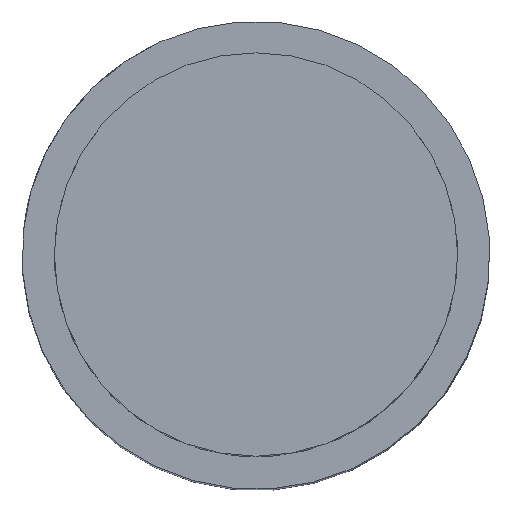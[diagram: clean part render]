
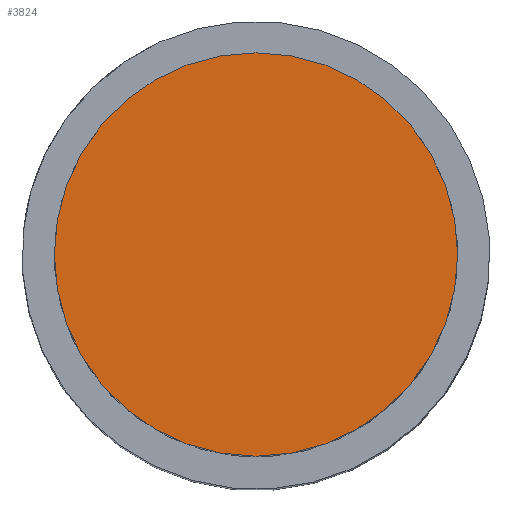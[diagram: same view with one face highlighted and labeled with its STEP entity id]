
A CAD part, top view. The second image highlights one B-rep face of the part: STEP entity #3824.
In plain terms, the highlighted planar face has unit normal (0, 0, 1) as drawn and (0, 1, 0) by its records, which use the part's own axes.
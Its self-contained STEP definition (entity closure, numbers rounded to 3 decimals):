
#159 = FACE_OUTER_BOUND ( 'NONE', #2482, .T. ) ;
#485 = EDGE_CURVE ( 'NONE', #4943, #3243, #3957, .T. ) ;
#726 = CARTESIAN_POINT ( 'NONE',  ( 0., 6.6, 0. ) ) ;
#1533 = CARTESIAN_POINT ( 'NONE',  ( 0., 6.6, 2.5 ) ) ;
#1553 = AXIS2_PLACEMENT_3D ( 'NONE', #6232, #6262, #4246 ) ;
#2482 = EDGE_LOOP ( 'NONE', ( #7325, #7163 ) ) ;
#2636 = DIRECTION ( 'NONE',  ( 0., 1., 0. ) ) ;
#2662 = PLANE ( 'NONE',  #2978 ) ;
#2978 = AXIS2_PLACEMENT_3D ( 'NONE', #726, #4649, #5355 ) ;
#3243 = VERTEX_POINT ( 'NONE', #1533 ) ;
#3315 = CARTESIAN_POINT ( 'NONE',  ( 0., 6.6, 0. ) ) ;
#3406 = CARTESIAN_POINT ( 'NONE',  ( 0., 6.6, -2.5 ) ) ;
#3824 = ADVANCED_FACE ( 'NONE', ( #159 ), #2662, .T. ) ;
#3957 = CIRCLE ( 'NONE', #1553, 2.5 ) ;
#4246 = DIRECTION ( 'NONE',  ( 0., 0., 1. ) ) ;
#4649 = DIRECTION ( 'NONE',  ( 0., 1., 0. ) ) ;
#4943 = VERTEX_POINT ( 'NONE', #3406 ) ;
#5355 = DIRECTION ( 'NONE',  ( 0., 0., 1. ) ) ;
#6232 = CARTESIAN_POINT ( 'NONE',  ( 0., 6.6, 0. ) ) ;
#6262 = DIRECTION ( 'NONE',  ( 0., 1., 0. ) ) ;
#7163 = ORIENTED_EDGE ( 'NONE', *, *, #7306, .T. ) ;
#7178 = CIRCLE ( 'NONE', #8507, 2.5 ) ;
#7257 = DIRECTION ( 'NONE',  ( 0., 0., 1. ) ) ;
#7306 = EDGE_CURVE ( 'NONE', #3243, #4943, #7178, .T. ) ;
#7325 = ORIENTED_EDGE ( 'NONE', *, *, #485, .T. ) ;
#8507 = AXIS2_PLACEMENT_3D ( 'NONE', #3315, #2636, #7257 ) ;
